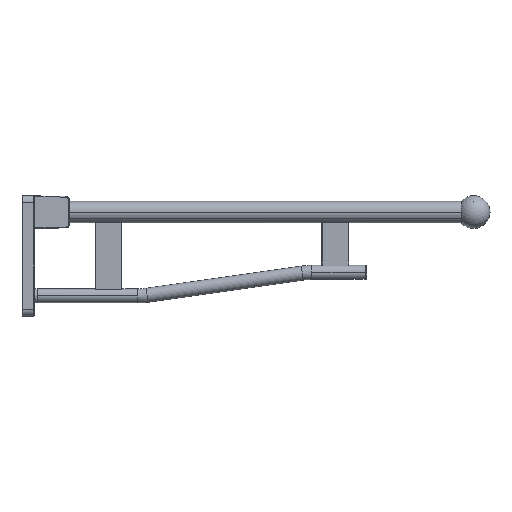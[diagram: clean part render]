
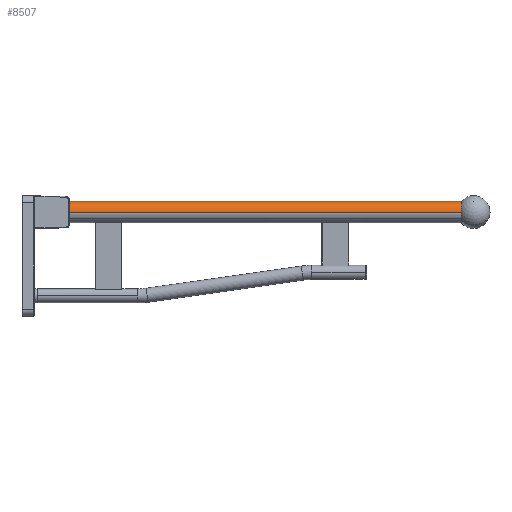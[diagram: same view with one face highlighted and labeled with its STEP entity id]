
A CAD part, top view. The second image highlights one B-rep face of the part: STEP entity #8507.
In plain terms, the highlighted cylindrical face has radius 16 mm (diameter 32 mm), a partial arc.
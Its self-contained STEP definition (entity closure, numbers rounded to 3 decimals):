
#131 = CARTESIAN_POINT ( 'NONE',  ( 12.897, 0.5, 0. ) ) ;
#449 = CARTESIAN_POINT ( 'NONE',  ( 628.397, 0.5, -16. ) ) ;
#473 = AXIS2_PLACEMENT_3D ( 'NONE', #3507, #1381, #4475 ) ;
#1129 = VERTEX_POINT ( 'NONE', #5761 ) ;
#1158 = ORIENTED_EDGE ( 'NONE', *, *, #3976, .F. ) ;
#1183 = VECTOR ( 'NONE', #7306, 1000. ) ;
#1381 = DIRECTION ( 'NONE',  ( 1., 0., 0. ) ) ;
#1384 = CYLINDRICAL_SURFACE ( 'NONE', #3904, 16. ) ;
#1513 = CARTESIAN_POINT ( 'NONE',  ( 12.897, 0.5, -16. ) ) ;
#2152 = DIRECTION ( 'NONE',  ( 0., 0., -1. ) ) ;
#2467 = CARTESIAN_POINT ( 'NONE',  ( 628.397, 0.5, 16. ) ) ;
#3371 = ORIENTED_EDGE ( 'NONE', *, *, #4574, .F. ) ;
#3507 = CARTESIAN_POINT ( 'NONE',  ( 628.397, 0.5, 0. ) ) ;
#3718 = DIRECTION ( 'NONE',  ( 0., 0., 1. ) ) ;
#3904 = AXIS2_PLACEMENT_3D ( 'NONE', #7756, #9678, #3718 ) ;
#3976 = EDGE_CURVE ( 'NONE', #5388, #9016, #7558, .T. ) ;
#4197 = CARTESIAN_POINT ( 'NONE',  ( 12.897, 0.5, 16. ) ) ;
#4271 = VECTOR ( 'NONE', #11445, 1000. ) ;
#4475 = DIRECTION ( 'NONE',  ( 0., 0., -1. ) ) ;
#4574 = EDGE_CURVE ( 'NONE', #1129, #5388, #8184, .T. ) ;
#4801 = EDGE_CURVE ( 'NONE', #11753, #9016, #8333, .T. ) ;
#5332 = EDGE_CURVE ( 'NONE', #1129, #11753, #12860, .T. ) ;
#5388 = VERTEX_POINT ( 'NONE', #2467 ) ;
#5761 = CARTESIAN_POINT ( 'NONE',  ( 628.397, 0.5, -16. ) ) ;
#6437 = CARTESIAN_POINT ( 'NONE',  ( 628.397, 0.5, 16. ) ) ;
#7120 = DIRECTION ( 'NONE',  ( 1., 0., 0. ) ) ;
#7306 = DIRECTION ( 'NONE',  ( -1., 0., 0. ) ) ;
#7558 = LINE ( 'NONE', #6437, #1183 ) ;
#7660 = AXIS2_PLACEMENT_3D ( 'NONE', #131, #7120, #2152 ) ;
#7756 = CARTESIAN_POINT ( 'NONE',  ( 628.397, 0.5, 0. ) ) ;
#8184 = CIRCLE ( 'NONE', #473, 16. ) ;
#8254 = EDGE_LOOP ( 'NONE', ( #3371, #11443, #11072, #1158 ) ) ;
#8333 = CIRCLE ( 'NONE', #7660, 16. ) ;
#8507 = ADVANCED_FACE ( 'NONE', ( #9357 ), #1384, .T. ) ;
#9016 = VERTEX_POINT ( 'NONE', #4197 ) ;
#9357 = FACE_OUTER_BOUND ( 'NONE', #8254, .T. ) ;
#9678 = DIRECTION ( 'NONE',  ( -1., 0., 0. ) ) ;
#11072 = ORIENTED_EDGE ( 'NONE', *, *, #4801, .T. ) ;
#11443 = ORIENTED_EDGE ( 'NONE', *, *, #5332, .T. ) ;
#11445 = DIRECTION ( 'NONE',  ( -1., 0., 0. ) ) ;
#11753 = VERTEX_POINT ( 'NONE', #1513 ) ;
#12860 = LINE ( 'NONE', #449, #4271 ) ;
